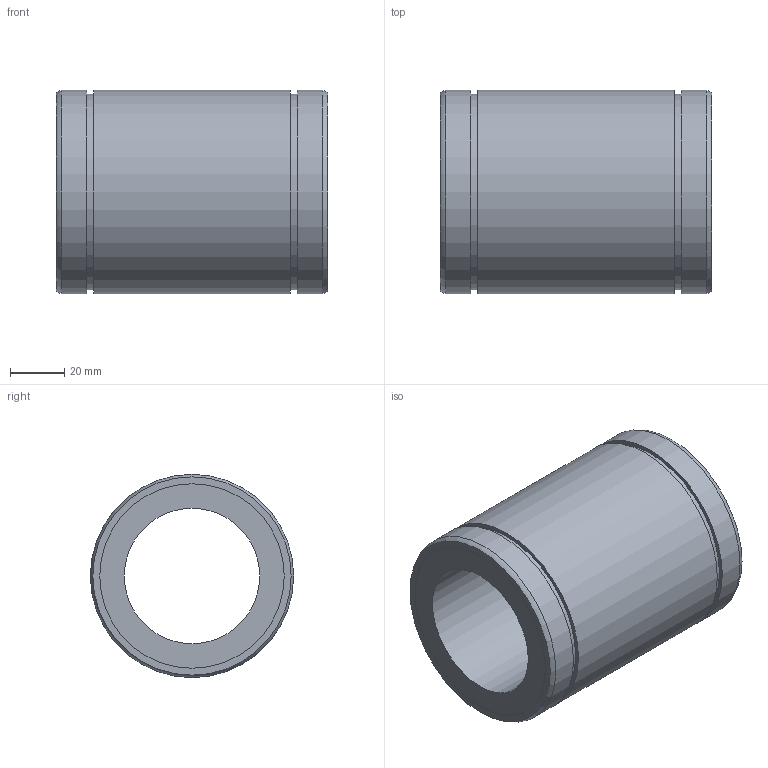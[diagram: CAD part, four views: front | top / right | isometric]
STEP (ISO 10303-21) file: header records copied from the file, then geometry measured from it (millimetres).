
FILE_DESCRIPTION((''),'2;1');
FILE_NAME('D:\製品 (図面)\カタログ用3D\リニアベアリング関連\STEP形式\LE\LE50.stp','2010-06-03T09:06:26',('Tsuchiya'),(''),'Autodesk Inventor 10','Autodesk Inventor 10','');
FILE_SCHEMA(('AUTOMOTIVE_DESIGN { 1 0 10303 214 1 1 1 1 }'));
Length unit declared in the file: millimetre
Products named in the file (1): LE50
Bounding box: 100 x 75 x 75 mm (x, y, z)
Volume: 242943.9 mm3; surface area: 45187.6 mm2
Topology: 1 solids, 1 shells, 18 faces, 28 edges, 18 vertices
Faces by surface type: plane 8, cylinder 8, torus 2
Full cylindrical faces by diameter (mm): 50 x1, 68 x2, 72 x2, 75 x3
Entity records: 391 total; most frequent: DIRECTION 74, CARTESIAN_POINT 55, AXIS2_PLACEMENT_3D 37, ORIENTED_EDGE 36, EDGE_LOOP 36, VERTEX_POINT 18, CIRCLE 18, EDGE_CURVE 18
